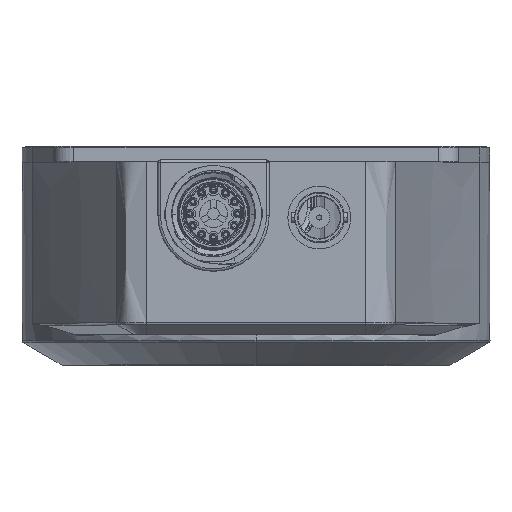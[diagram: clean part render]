
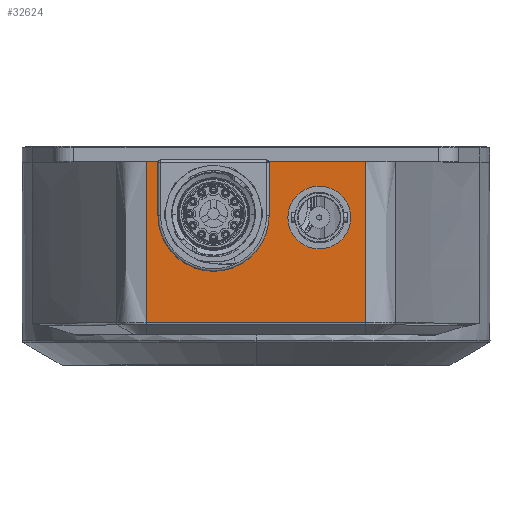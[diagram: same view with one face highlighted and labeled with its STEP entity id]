
A CAD part, top view. The second image highlights one B-rep face of the part: STEP entity #32624.
In plain terms, the highlighted planar face has unit normal (0, 0, 1).
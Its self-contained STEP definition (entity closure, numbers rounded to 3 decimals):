
#434 = AXIS2_PLACEMENT_3D ( 'NONE', #55614, #46851, #1736 ) ;
#451 = CARTESIAN_POINT ( 'NONE',  ( 0.615, 29.3, 81.8 ) ) ;
#707 = B_SPLINE_CURVE_WITH_KNOTS ( 'NONE', 3,
 ( #44018, #21792, #56900, #30847 ),
 .UNSPECIFIED., .F., .F.,
 ( 4, 4 ),
 ( 0.069, 1. ),
 .UNSPECIFIED. ) ;
#1516 = LINE ( 'NONE', #5329, #18400 ) ;
#1582 = CARTESIAN_POINT ( 'NONE',  ( -21.573, 8.288, 81.8 ) ) ;
#1736 = DIRECTION ( 'NONE',  ( 1., 0., 0. ) ) ;
#4386 = DIRECTION ( 'NONE',  ( 0., -1., 0. ) ) ;
#5329 = CARTESIAN_POINT ( 'NONE',  ( -26.43, 8.288, 81.8 ) ) ;
#5434 = VERTEX_POINT ( 'NONE', #11013 ) ;
#5917 = EDGE_CURVE ( 'NONE', #52795, #35316, #42313, .T. ) ;
#6079 = CARTESIAN_POINT ( 'NONE',  ( -21.573, 8.288, 81.8 ) ) ;
#6227 = ORIENTED_EDGE ( 'NONE', *, *, #20197, .T. ) ;
#6371 = CARTESIAN_POINT ( 'NONE',  ( 8.858, 25.451, 81.8 ) ) ;
#6499 = DIRECTION ( 'NONE',  ( 0., 0., 1. ) ) ;
#7368 = AXIS2_PLACEMENT_3D ( 'NONE', #33527, #55463, #37910 ) ;
#8043 = ORIENTED_EDGE ( 'NONE', *, *, #43897, .T. ) ;
#8248 = VERTEX_POINT ( 'NONE', #37502 ) ;
#8528 = EDGE_CURVE ( 'NONE', #18767, #40654, #57012, .T. ) ;
#10458 = ORIENTED_EDGE ( 'NONE', *, *, #57301, .T. ) ;
#11013 = CARTESIAN_POINT ( 'NONE',  ( 8.43, 26.501, 81.8 ) ) ;
#11649 = VECTOR ( 'NONE', #4386, 1000. ) ;
#14037 = VERTEX_POINT ( 'NONE', #16594 ) ;
#16594 = CARTESIAN_POINT ( 'NONE',  ( 0.615, 29.3, 81.8 ) ) ;
#17610 = CARTESIAN_POINT ( 'NONE',  ( -26.43, 39.95, 81.8 ) ) ;
#18400 = VECTOR ( 'NONE', #18857, 1000. ) ;
#18411 = VERTEX_POINT ( 'NONE', #55671 ) ;
#18568 = EDGE_CURVE ( 'NONE', #56182, #5434, #44827, .T. ) ;
#18767 = VERTEX_POINT ( 'NONE', #21396 ) ;
#18857 = DIRECTION ( 'NONE',  ( 1., 0., 0. ) ) ;
#19649 = CARTESIAN_POINT ( 'NONE',  ( 8.43, 31.399, 81.8 ) ) ;
#19867 = AXIS2_PLACEMENT_3D ( 'NONE', #51191, #51758, #28665 ) ;
#20197 = EDGE_CURVE ( 'NONE', #40654, #26224, #1516, .T. ) ;
#21067 = ORIENTED_EDGE ( 'NONE', *, *, #18568, .F. ) ;
#21396 = CARTESIAN_POINT ( 'NONE',  ( -21.573, 39.95, 81.8 ) ) ;
#21792 = CARTESIAN_POINT ( 'NONE',  ( 21.573, 18.842, 81.8 ) ) ;
#23468 = CARTESIAN_POINT ( 'NONE',  ( 21.573, 39.95, 81.8 ) ) ;
#24127 = EDGE_CURVE ( 'NONE', #35944, #43663, #48876, .T. ) ;
#24705 = DIRECTION ( 'NONE',  ( 1., 0., 0. ) ) ;
#25209 = CARTESIAN_POINT ( 'NONE',  ( 21.573, 8.288, 81.8 ) ) ;
#26096 = ORIENTED_EDGE ( 'NONE', *, *, #8528, .T. ) ;
#26224 = VERTEX_POINT ( 'NONE', #25209 ) ;
#27099 = ORIENTED_EDGE ( 'NONE', *, *, #24127, .F. ) ;
#27458 = CARTESIAN_POINT ( 'NONE',  ( 8.858, 32.449, 81.8 ) ) ;
#28555 = CIRCLE ( 'NONE', #434, 1.5 ) ;
#28665 = DIRECTION ( 'NONE',  ( 1., 0., 0. ) ) ;
#29015 = VECTOR ( 'NONE', #39281, 1000. ) ;
#29104 = CARTESIAN_POINT ( 'NONE',  ( 9.93, 31.399, 81.8 ) ) ;
#29495 = ORIENTED_EDGE ( 'NONE', *, *, #5917, .F. ) ;
#29884 = LINE ( 'NONE', #30749, #38644 ) ;
#30421 = EDGE_LOOP ( 'NONE', ( #21067, #10458, #29495, #30803 ) ) ;
#30623 = ORIENTED_EDGE ( 'NONE', *, *, #41411, .F. ) ;
#30749 = CARTESIAN_POINT ( 'NONE',  ( -17.315, 29.3, 81.8 ) ) ;
#30803 = ORIENTED_EDGE ( 'NONE', *, *, #38039, .T. ) ;
#30847 = CARTESIAN_POINT ( 'NONE',  ( 21.573, 39.95, 81.8 ) ) ;
#32493 = CARTESIAN_POINT ( 'NONE',  ( -21.573, 18.842, 81.8 ) ) ;
#32612 = FACE_BOUND ( 'NONE', #30421, .T. ) ;
#32624 = ADVANCED_FACE ( 'NONE', ( #32612, #50765 ), #46061, .T. ) ;
#33527 = CARTESIAN_POINT ( 'NONE',  ( -8.35, 29.3, 81.8 ) ) ;
#33695 = ORIENTED_EDGE ( 'NONE', *, *, #40637, .F. ) ;
#34247 = DIRECTION ( 'NONE',  ( 0., -1., 0. ) ) ;
#34502 = CIRCLE ( 'NONE', #7368, 8.965 ) ;
#35221 = VECTOR ( 'NONE', #52679, 1000. ) ;
#35316 = VERTEX_POINT ( 'NONE', #27458 ) ;
#35944 = VERTEX_POINT ( 'NONE', #51061 ) ;
#36877 = EDGE_LOOP ( 'NONE', ( #26096, #6227, #8043, #27099, #38400, #33695, #54847, #30623 ) ) ;
#37283 = VECTOR ( 'NONE', #41157, 1000. ) ;
#37502 = CARTESIAN_POINT ( 'NONE',  ( -17.315, 29.3, 81.8 ) ) ;
#37557 = CARTESIAN_POINT ( 'NONE',  ( -26.43, 7.75, 81.8 ) ) ;
#37910 = DIRECTION ( 'NONE',  ( 1., 0., 0. ) ) ;
#38039 = EDGE_CURVE ( 'NONE', #52795, #5434, #28555, .T. ) ;
#38294 = CIRCLE ( 'NONE', #57968, 1.5 ) ;
#38400 = ORIENTED_EDGE ( 'NONE', *, *, #55750, .F. ) ;
#38644 = VECTOR ( 'NONE', #34247, 1000. ) ;
#39281 = DIRECTION ( 'NONE',  ( 1., 0., 0. ) ) ;
#40637 = EDGE_CURVE ( 'NONE', #8248, #14037, #34502, .T. ) ;
#40654 = VERTEX_POINT ( 'NONE', #1582 ) ;
#40994 = CARTESIAN_POINT ( 'NONE',  ( -21.573, 39.95, 81.8 ) ) ;
#41157 = DIRECTION ( 'NONE',  ( 0., 1., 0. ) ) ;
#41411 = EDGE_CURVE ( 'NONE', #18767, #18411, #57131, .T. ) ;
#42313 = CIRCLE ( 'NONE', #19867, 5. ) ;
#43663 = VERTEX_POINT ( 'NONE', #23468 ) ;
#43759 = EDGE_CURVE ( 'NONE', #18411, #8248, #29884, .T. ) ;
#43897 = EDGE_CURVE ( 'NONE', #26224, #43663, #707, .T. ) ;
#44018 = CARTESIAN_POINT ( 'NONE',  ( 21.573, 8.288, 81.8 ) ) ;
#44827 = LINE ( 'NONE', #48942, #11649 ) ;
#45381 = CARTESIAN_POINT ( 'NONE',  ( -21.573, 29.396, 81.8 ) ) ;
#46061 = PLANE ( 'NONE',  #49382 ) ;
#46851 = DIRECTION ( 'NONE',  ( 0., 0., -1. ) ) ;
#48876 = LINE ( 'NONE', #17610, #35221 ) ;
#48942 = CARTESIAN_POINT ( 'NONE',  ( 8.43, 31.95, 81.8 ) ) ;
#49382 = AXIS2_PLACEMENT_3D ( 'NONE', #37557, #6499, #55101 ) ;
#49387 = LINE ( 'NONE', #451, #37283 ) ;
#50765 = FACE_OUTER_BOUND ( 'NONE', #36877, .T. ) ;
#51061 = CARTESIAN_POINT ( 'NONE',  ( 0.615, 39.95, 81.8 ) ) ;
#51191 = CARTESIAN_POINT ( 'NONE',  ( 12.43, 28.95, 81.8 ) ) ;
#51758 = DIRECTION ( 'NONE',  ( 0., 0., 1. ) ) ;
#52679 = DIRECTION ( 'NONE',  ( 1., 0., 0. ) ) ;
#52795 = VERTEX_POINT ( 'NONE', #6371 ) ;
#54847 = ORIENTED_EDGE ( 'NONE', *, *, #43759, .F. ) ;
#55101 = DIRECTION ( 'NONE',  ( 1., 0., 0. ) ) ;
#55463 = DIRECTION ( 'NONE',  ( 0., 0., 1. ) ) ;
#55614 = CARTESIAN_POINT ( 'NONE',  ( 9.93, 26.501, 81.8 ) ) ;
#55671 = CARTESIAN_POINT ( 'NONE',  ( -17.315, 39.95, 81.8 ) ) ;
#55704 = DIRECTION ( 'NONE',  ( 0., 0., -1. ) ) ;
#55750 = EDGE_CURVE ( 'NONE', #14037, #35944, #49387, .T. ) ;
#56182 = VERTEX_POINT ( 'NONE', #19649 ) ;
#56548 = CARTESIAN_POINT ( 'NONE',  ( -26.43, 39.95, 81.8 ) ) ;
#56900 = CARTESIAN_POINT ( 'NONE',  ( 21.573, 29.396, 81.8 ) ) ;
#57012 = B_SPLINE_CURVE_WITH_KNOTS ( 'NONE', 3,
 ( #40994, #45381, #32493, #6079 ),
 .UNSPECIFIED., .F., .F.,
 ( 4, 4 ),
 ( 0., 0.931 ),
 .UNSPECIFIED. ) ;
#57131 = LINE ( 'NONE', #56548, #29015 ) ;
#57301 = EDGE_CURVE ( 'NONE', #56182, #35316, #38294, .T. ) ;
#57968 = AXIS2_PLACEMENT_3D ( 'NONE', #29104, #55704, #24705 ) ;
